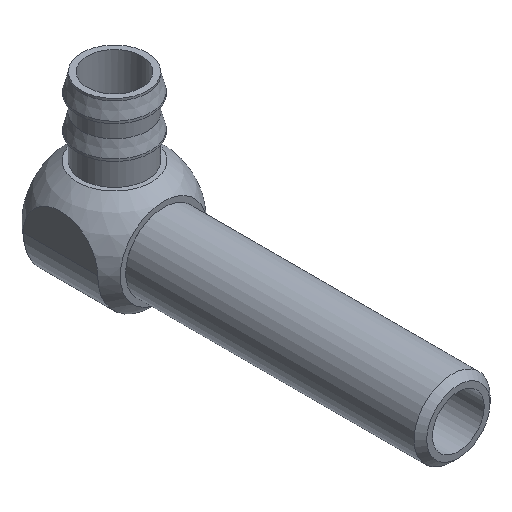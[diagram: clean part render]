
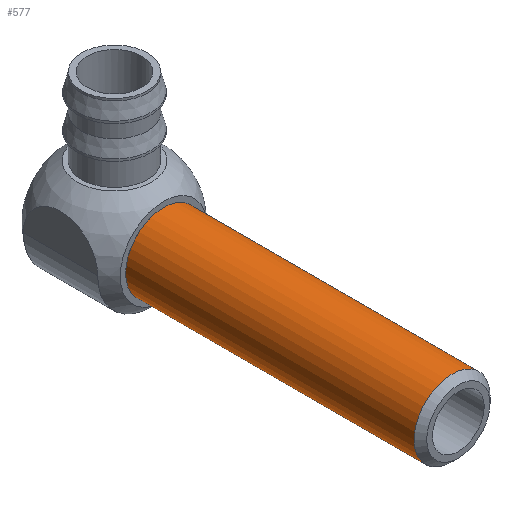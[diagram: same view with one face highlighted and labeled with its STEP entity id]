
A CAD part, isometric view. The second image highlights one B-rep face of the part: STEP entity #577.
In plain terms, the highlighted cylindrical face has radius 11.048 mm (diameter 22.095 mm), a full revolution.
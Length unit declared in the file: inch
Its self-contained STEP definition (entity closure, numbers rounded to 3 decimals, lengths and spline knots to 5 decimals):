
#56=CYLINDRICAL_SURFACE('',#630,0.43495);
#68=FACE_OUTER_BOUND('',#102,.T.);
#102=EDGE_LOOP('',(#411,#412,#413,#414,#415));
#148=LINE('',#922,#182);
#182=VECTOR('',#723,0.4375);
#216=CIRCLE('',#628,0.43495);
#217=CIRCLE('',#629,0.43495);
#218=CIRCLE('',#631,0.43495);
#263=VERTEX_POINT('',#915);
#264=VERTEX_POINT('',#917);
#265=VERTEX_POINT('',#921);
#325=EDGE_CURVE('',#263,#264,#216,.F.);
#326=EDGE_CURVE('',#264,#263,#217,.F.);
#327=EDGE_CURVE('',#264,#265,#148,.T.);
#328=EDGE_CURVE('',#265,#265,#218,.T.);
#411=ORIENTED_EDGE('',*,*,#326,.F.);
#412=ORIENTED_EDGE('',*,*,#327,.T.);
#413=ORIENTED_EDGE('',*,*,#328,.T.);
#414=ORIENTED_EDGE('',*,*,#327,.F.);
#415=ORIENTED_EDGE('',*,*,#325,.F.);
#577=ADVANCED_FACE('',(#68),#56,.T.);
#628=AXIS2_PLACEMENT_3D('',#918,#717,#718);
#629=AXIS2_PLACEMENT_3D('',#919,#719,#720);
#630=AXIS2_PLACEMENT_3D('',#920,#721,#722);
#631=AXIS2_PLACEMENT_3D('',#923,#724,#725);
#717=DIRECTION('center_axis',(0.,1.,0.));
#718=DIRECTION('ref_axis',(0.,0.,-1.));
#719=DIRECTION('center_axis',(0.,1.,0.));
#720=DIRECTION('ref_axis',(0.,0.,-1.));
#721=DIRECTION('center_axis',(0.,-1.,0.));
#722=DIRECTION('ref_axis',(0.,0.,-1.));
#723=DIRECTION('',(0.,1.,0.));
#724=DIRECTION('center_axis',(0.,-1.,0.));
#725=DIRECTION('ref_axis',(0.,0.,-1.));
#915=CARTESIAN_POINT('',(0.,-3.30255,-0.43495));
#917=CARTESIAN_POINT('',(0.,-3.30255,0.43495));
#918=CARTESIAN_POINT('Origin',(0.,-3.30255,0.));
#919=CARTESIAN_POINT('Origin',(0.,-3.30255,0.));
#920=CARTESIAN_POINT('Origin',(0.,-1.6875,0.));
#921=CARTESIAN_POINT('',(0.,0.,0.43495));
#922=CARTESIAN_POINT('',(0.,-1.6875,0.43495));
#923=CARTESIAN_POINT('Origin',(0.,0.,0.));
